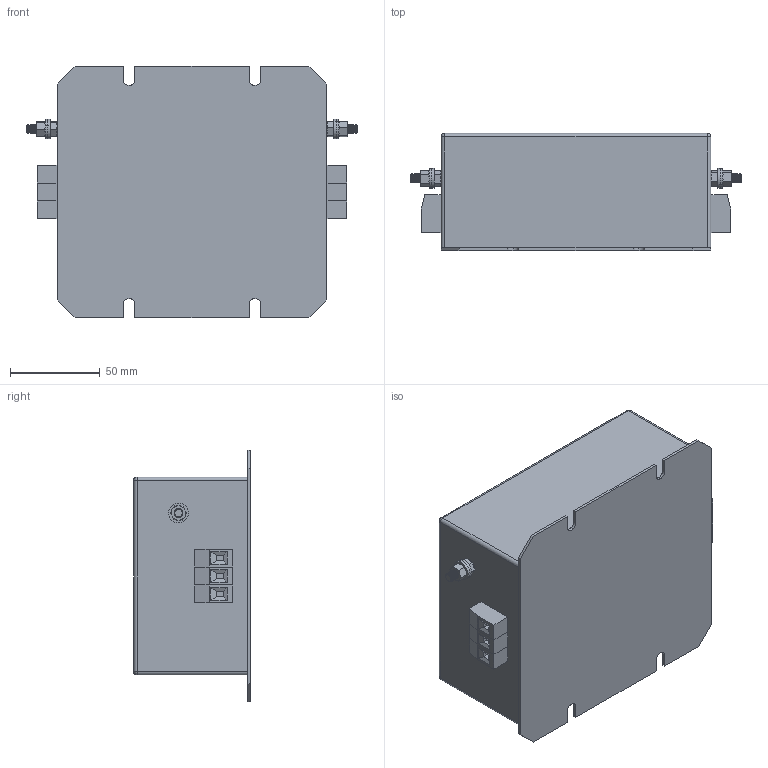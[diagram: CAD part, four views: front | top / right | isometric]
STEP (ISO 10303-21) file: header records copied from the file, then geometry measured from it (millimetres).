
FILE_DESCRIPTION (( 'STEP AP203' ), '1' );
FILE_NAME ('NF-12-FTK.STEP', '2024-04-18T15:50:15', ( '' ), ( '' ), 'SwSTEP 2.0', 'SolidWorks 2017', '' );
FILE_SCHEMA (( 'CONFIG_CONTROL_DESIGN' ));
Length unit declared in the file: millimetre
Products named in the file (8): M5x13 Earth post; hex screw_am_B18.6.7M - M5 x 0.8 x 13 Indented HHMS --13S; NF-12-FTK; VDFK4x3; hex nut style 1_am_B18.2.4.1M - Hex nut, Style 1,  M5 x 0.8 --D-N; VDFK-4; flat washer narrow_am_B18.22M - Plain washer, 5 mm, narrow
Assembly tree (12 placements, depth 3):
  NF-12-FTK
    NF-12-FTK
    VDFK4x3  x2
      VDFK-4
    M5x13 Earth post  x2
      hex screw_am_B18.6.7M - M5 x 0.8 x 13 Indented HHMS --13S
      flat washer narrow_am_B18.22M - Plain washer, 5 mm, narrow
      hex nut style 1_am_B18.2.4.1M - Hex nut, Style 1,  M5 x 0.8 --D-N
Bounding box: 183.6 x 65 x 140 mm (x, y, z)
Volume: 1067407.2 mm3; surface area: 131981.5 mm2
Topology: 16 solids, 16 shells, 592 faces, 1452 edges, 916 vertices
Faces by surface type: plane 270, cone 176, cylinder 142, sphere 4
Entity records: 8357 total; most frequent: CARTESIAN_POINT 1397, DIRECTION 1359, ORIENTED_EDGE 1206, EDGE_CURVE 603, AXIS2_PLACEMENT_3D 532, VERTEX_POINT 378, VECTOR 295, LINE 295
